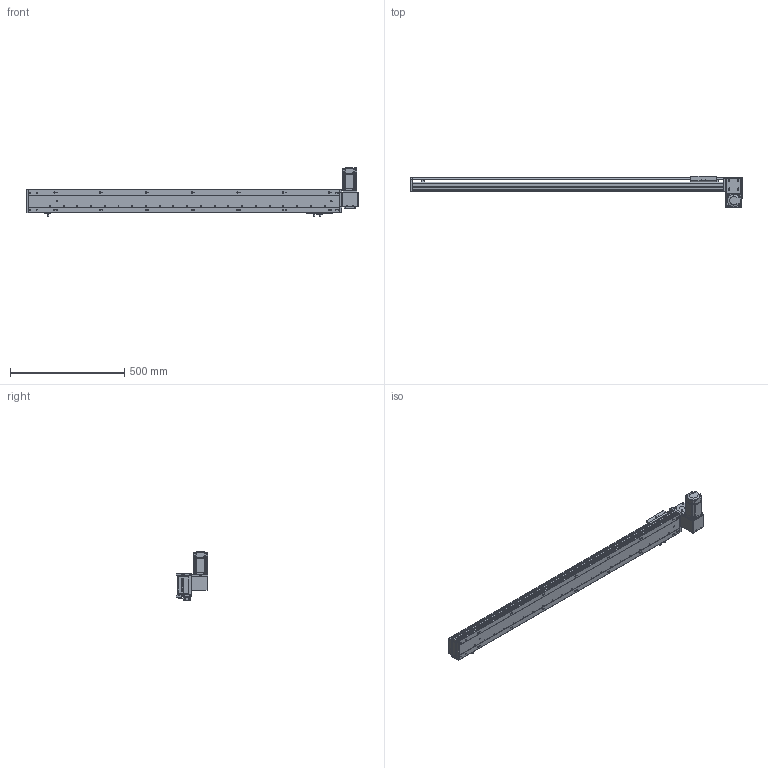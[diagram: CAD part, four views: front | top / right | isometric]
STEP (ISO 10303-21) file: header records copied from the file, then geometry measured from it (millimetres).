
FILE_DESCRIPTION (( 'STEP AP203' ), '1' );
FILE_NAME ('RY100-T-300-DR.SLDASM_1150.step', '2024-04-25T03:23:09', ( '盈信电脑' ), ( '东莞市道滘镇水果街19号' ), 'SwSTEP 2.0', 'SolidWorks 2016', '' );
FILE_SCHEMA (( 'CONFIG_CONTROL_DESIGN' ));
Length unit declared in the file: millimetre
Products named in the file (16): RY100-T左右折电机安装板; RY100-T肮祭謫翋盓傅釱; RY100-T-300-RK倰第奻裔_1150; RY100-T翋肮祭謫裔啣; RY100綴裔啣; RY100俋离覜茼え; 1; RY100-T肮祭謫臏賑輸; RY100-T-300-RK倰第菁釱_1150; RY100-T-300-DR.SLDASM_1150; RY100-T粣創揤踡裔; RY80-T肮祭謫狟殏俋欶; 侂狟200W萇儂; RY100-T翋肮祭謫裔啣2; 覜茼ん672; 滅袉蝶18-10
Assembly tree (19 placements, depth 3):
  RY100-T-300-DR.SLDASM_1150
    RY100-T-300-RK倰第菁釱_1150
    RY100-T-300-RK倰第奻裔_1150
    RY100-T肮祭謫臏賑輸
    RY100綴裔啣
    覜茼ん672  x3
    RY100俋离覜茼え
    RY100-T肮祭謫翋盓傅釱
    RY100-T左右折电机安装板
    侂狟200W萇儂
      1
    RY100-T粣創揤踡裔
    滅袉蝶18-10  x2
    RY100-T翋肮祭謫裔啣2  x2
    RY100-T翋肮祭謫裔啣
    RY80-T肮祭謫狟殏俋欶
Bounding box: 1450 x 135.5 x 209.7 mm (x, y, z)
Volume: 2882933.7 mm3; surface area: 1199436.5 mm2
Topology: 18 solids, 18 shells, 2223 faces, 6175 edges, 4011 vertices
Faces by surface type: plane 1213, cylinder 801, cone 131, bspline 78
Entity records: 71072 total; most frequent: CARTESIAN_POINT 17038, ORIENTED_EDGE 11086, DIRECTION 10575, EDGE_CURVE 5543, VERTEX_POINT 3647, VECTOR 3593, LINE 3593, AXIS2_PLACEMENT_3D 3491
